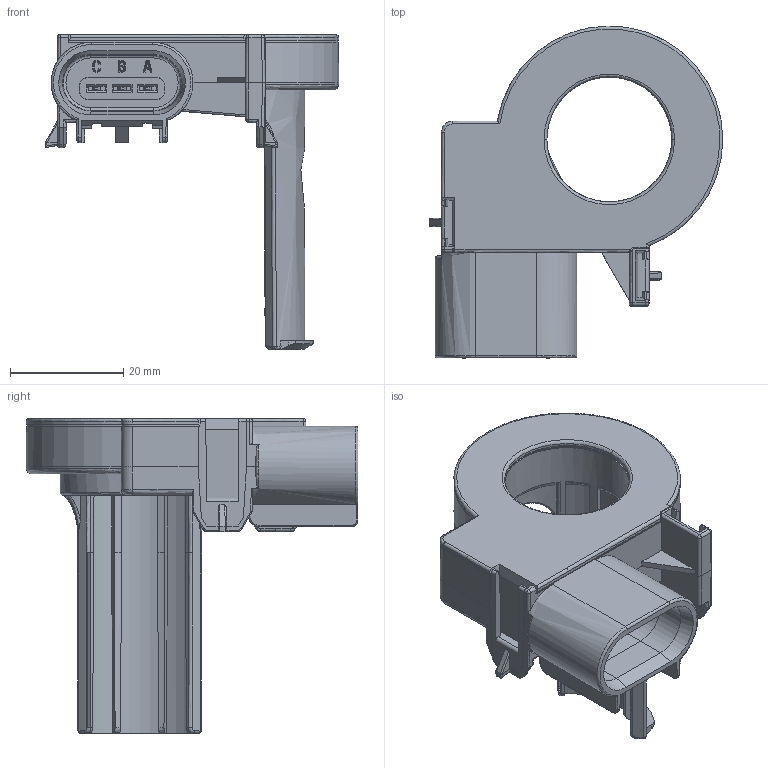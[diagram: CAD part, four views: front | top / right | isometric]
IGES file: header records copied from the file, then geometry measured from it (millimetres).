
Start section: Elysium IGES Interface
Global section: file name: Z:\BBOX\HAB\HAB-BBOX-LONG-CONNECTOR-VERSION-20100920.igs; native system: SolidDesigner 16.00A  16-Aug-2008; preprocessor: CoCreate IGES_3D V2.2; author: Unknown; organization: Unknown; date: 20100920.142223; units: millimetre
Bounding box: 51.75 x 58.5 x 55.5 mm (x, y, z)
Volume: 18217.7 mm3; surface area: 11971.2 mm2
Topology: 1 solids, 1 shells, 1854 faces, 5168 edges, 3375 vertices
Faces by surface type: bspline 1854
